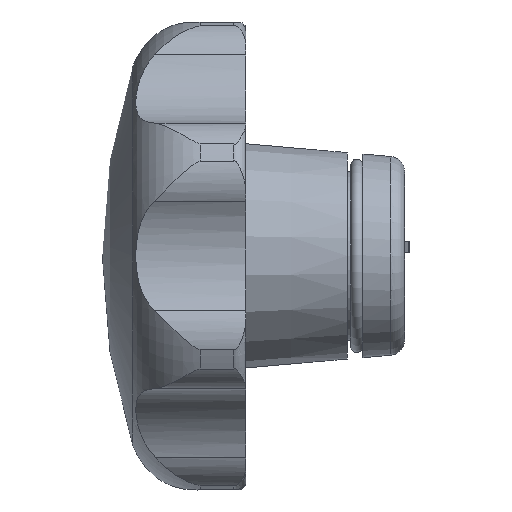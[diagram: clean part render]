
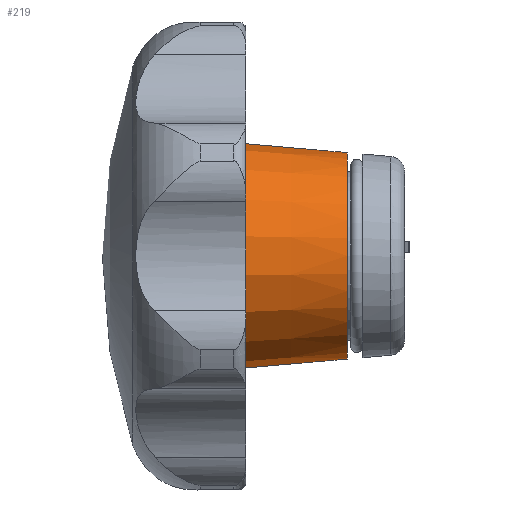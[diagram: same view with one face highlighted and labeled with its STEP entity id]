
A CAD part, left-side view. The second image highlights one B-rep face of the part: STEP entity #219.
In plain terms, the highlighted conical face has half-angle 5 degrees and reference radius 15.627 mm.
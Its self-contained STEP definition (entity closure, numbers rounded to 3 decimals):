
#219 = ADVANCED_FACE( '', ( #436, #437 ), #438, .T. );
#436 = FACE_BOUND( '', #787, .T. );
#437 = FACE_OUTER_BOUND( '', #788, .T. );
#438 = CONICAL_SURFACE( '', #789, 15.627, 0.087 );
#787 = EDGE_LOOP( '', ( #1448 ) );
#788 = EDGE_LOOP( '', ( #1449 ) );
#789 = AXIS2_PLACEMENT_3D( '', #1450, #1451, #1452 );
#1448 = ORIENTED_EDGE( '', *, *, #2317, .F. );
#1449 = ORIENTED_EDGE( '', *, *, #2316, .T. );
#1450 = CARTESIAN_POINT( '', ( 0., 30.055, 0. ) );
#1451 = DIRECTION( '', ( 0., 1., 0. ) );
#1452 = DIRECTION( '', ( 0., 0., 1. ) );
#2316 = EDGE_CURVE( '', #2811, #2811, #2812, .T. );
#2317 = EDGE_CURVE( '', #2813, #2813, #2814, .T. );
#2811 = VERTEX_POINT( '', #4510 );
#2812 = CIRCLE( '', #4511, 15.627 );
#2813 = VERTEX_POINT( '', #4512 );
#2814 = CIRCLE( '', #4513, 13.663 );
#4510 = CARTESIAN_POINT( '', ( 0., 30.055, -15.627 ) );
#4511 = AXIS2_PLACEMENT_3D( '', #5112, #5113, #5114 );
#4512 = CARTESIAN_POINT( '', ( 0., 7.6, -13.663 ) );
#4513 = AXIS2_PLACEMENT_3D( '', #5115, #5116, #5117 );
#5112 = CARTESIAN_POINT( '', ( 0., 30.055, 0. ) );
#5113 = DIRECTION( '', ( 0., -1., 0. ) );
#5114 = DIRECTION( '', ( 0., 0., -1. ) );
#5115 = CARTESIAN_POINT( '', ( 0., 7.6, 0. ) );
#5116 = DIRECTION( '', ( 0., -1., 0. ) );
#5117 = DIRECTION( '', ( 0., 0., -1. ) );
